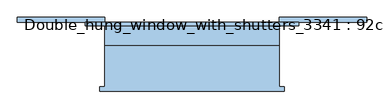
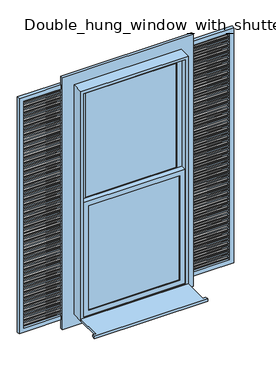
"""IFC4 building model written with IfcOpenShell, lengths in millimetres: window geometry, Double_hung_window_with_shutters_3341 : 92cmx208cm."""

from ifc_helpers import new_model, si_unit, frame, origin, place, context, project, spatial, polyline, outline, extrude, source, transform, mapped, element, save


def double_hung_window_with_shutters_3341_92cmx208cm_efbd8e0f(model_context):
    return source(origin(), model_context, "Body", "SweptSolid", [
        extrude(outline(polyline([(0.0, -25.3999999), (0.0, 0.0), (383.8, 0.0), (383.8, -25.3999999), (0.0, -25.3999999)])), frame((-881.9, 198.5980122, 2578.2474927), z_axis=(0.0, 0.7071067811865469, 0.7071067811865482), x_axis=(1.0, 0.0, 0.0)), (0.0, 0.0, 1.0), 6.35),
        extrude(outline(polyline([(0.0, -25.3999999), (0.0, 0.0), (383.8, 0.0), (383.8, -25.3999999), (0.0, -25.3999999)])), frame((-881.9, 198.5980122, 2552.8456257), z_axis=(0.0, 0.7071067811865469, 0.7071067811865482), x_axis=(1.0, 0.0, 0.0)), (0.0, 0.0, 1.0), 6.35),
        extrude(outline(polyline([(0.0, -25.4), (0.0, 0.0), (383.8, 0.0), (383.8, -25.4), (0.0, -25.4)])), frame((-881.9, 198.5980122, 2527.4437587), z_axis=(0.0, 0.7071067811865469, 0.7071067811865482), x_axis=(1.0, 0.0, 0.0)), (0.0, 0.0, 1.0), 6.35),
        extrude(outline(polyline([(0.0, -25.4), (0.0, 0.0), (383.8, 0.0), (383.8, -25.4), (0.0, -25.4)])), frame((-881.9, 198.5980122, 2502.0418917), z_axis=(0.0, 0.7071067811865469, 0.7071067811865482), x_axis=(1.0, 0.0, 0.0)), (0.0, 0.0, 1.0), 6.35),
        extrude(outline(polyline([(0.0, -25.4), (0.0, 0.0), (383.8, 0.0), (383.8, -25.4), (0.0, -25.4)])), frame((-881.9, 198.5980122, 2476.6400247), z_axis=(0.0, 0.7071067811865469, 0.7071067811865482), x_axis=(1.0, 0.0, 0.0)), (0.0, 0.0, 1.0), 6.35),
        extrude(outline(polyline([(0.0, -25.4), (0.0, 0.0), (383.8, 0.0), (383.8, -25.4), (0.0, -25.4)])), frame((-881.9, 198.5980122, 2451.2381577), z_axis=(0.0, 0.7071067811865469, 0.7071067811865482), x_axis=(1.0, 0.0, 0.0)), (0.0, 0.0, 1.0), 6.35),
        extrude(outline(polyline([(0.0, -25.4), (0.0, 0.0), (383.8, 0.0), (383.8, -25.4), (0.0, -25.4)])), frame((-881.9, 198.5980122, 2425.8362907), z_axis=(0.0, 0.7071067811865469, 0.7071067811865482), x_axis=(1.0, 0.0, 0.0)), (0.0, 0.0, 1.0), 6.35),
        extrude(outline(polyline([(0.0, -25.4), (0.0, 0.0), (383.8, 0.0), (383.8, -25.4), (0.0, -25.4)])), frame((-881.9, 198.5980122, 2400.4344237), z_axis=(0.0, 0.7071067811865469, 0.7071067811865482), x_axis=(1.0, 0.0, 0.0)), (0.0, 0.0, 1.0), 6.35),
        extrude(outline(polyline([(0.0, -25.4), (0.0, 0.0), (383.8, 0.0), (383.8, -25.4), (0.0, -25.4)])), frame((-881.9, 198.5980122, 2375.0325567), z_axis=(0.0, 0.7071067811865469, 0.7071067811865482), x_axis=(1.0, 0.0, 0.0)), (0.0, 0.0, 1.0), 6.35),
        extrude(outline(polyline([(0.0, -25.4), (0.0, 0.0), (383.8, 0.0), (383.8, -25.4), (0.0, -25.4)])), frame((-881.9, 198.5980122, 2349.6306897), z_axis=(0.0, 0.7071067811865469, 0.7071067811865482), x_axis=(1.0, 0.0, 0.0)), (0.0, 0.0, 1.0), 6.35),
        extrude(outline(polyline([(0.0, -25.4), (0.0, 0.0), (383.8, 0.0), (383.8, -25.4), (0.0, -25.4)])), frame((-881.9, 198.5980122, 2324.2288227), z_axis=(0.0, 0.7071067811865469, 0.7071067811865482), x_axis=(1.0, 0.0, 0.0)), (0.0, 0.0, 1.0), 6.35),
        extrude(outline(polyline([(0.0, -25.4), (0.0, 0.0), (383.8, 0.0), (383.8, -25.4), (0.0, -25.4)])), frame((-881.9, 198.5980122, 2298.8269557), z_axis=(0.0, 0.7071067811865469, 0.7071067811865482), x_axis=(1.0, 0.0, 0.0)), (0.0, 0.0, 1.0), 6.35),
        extrude(outline(polyline([(0.0, -25.4), (0.0, 0.0), (383.8, 0.0), (383.8, -25.4), (0.0, -25.4)])), frame((-881.9, 198.5980122, 2273.4250887), z_axis=(0.0, 0.7071067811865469, 0.7071067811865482), x_axis=(1.0, 0.0, 0.0)), (0.0, 0.0, 1.0), 6.35),
        extrude(outline(polyline([(0.0, -25.3999999), (0.0, 0.0), (383.8, 0.0), (383.8, -25.3999999), (0.0, -25.3999999)])), frame((-881.9, 198.5980122, 2248.0232218), z_axis=(0.0, 0.7071067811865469, 0.7071067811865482), x_axis=(1.0, 0.0, 0.0)), (0.0, 0.0, 1.0), 6.35),
        extrude(outline(polyline([(0.0, -25.3999999), (0.0, 0.0), (383.8, 0.0), (383.8, -25.3999999), (0.0, -25.3999999)])), frame((-881.9, 198.5980122, 2222.6213548), z_axis=(0.0, 0.7071067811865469, 0.7071067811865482), x_axis=(1.0, 0.0, 0.0)), (0.0, 0.0, 1.0), 6.35),
        extrude(outline(polyline([(0.0, -25.3999999), (0.0, 0.0), (383.8, 0.0), (383.8, -25.3999999), (0.0, -25.3999999)])), frame((-881.9, 198.5980122, 2197.2194878), z_axis=(0.0, 0.7071067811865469, 0.7071067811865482), x_axis=(1.0, 0.0, 0.0)), (0.0, 0.0, 1.0), 6.35),
        extrude(outline(polyline([(0.0, -25.3999999), (0.0, 0.0), (383.8, 0.0), (383.8, -25.3999999), (0.0, -25.3999999)])), frame((-881.9, 198.5980122, 2171.8176208), z_axis=(0.0, 0.7071067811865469, 0.7071067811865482), x_axis=(1.0, 0.0, 0.0)), (0.0, 0.0, 1.0), 6.35),
        extrude(outline(polyline([(0.0, -25.3999999), (0.0, 0.0), (383.8, 0.0), (383.8, -25.3999999), (0.0, -25.3999999)])), frame((-881.9, 198.5980122, 2146.4157538), z_axis=(0.0, 0.7071067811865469, 0.7071067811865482), x_axis=(1.0, 0.0, 0.0)), (0.0, 0.0, 1.0), 6.35),
        extrude(outline(polyline([(0.0, -25.3999999), (0.0, 0.0), (383.8, 0.0), (383.8, -25.3999999), (0.0, -25.3999999)])), frame((-881.9, 198.5980122, 2121.0138868), z_axis=(0.0, 0.7071067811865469, 0.7071067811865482), x_axis=(1.0, 0.0, 0.0)), (0.0, 0.0, 1.0), 6.35),
        extrude(outline(polyline([(0.0, -25.3999999), (0.0, 0.0), (383.8, 0.0), (383.8, -25.3999999), (0.0, -25.3999999)])), frame((-881.9, 198.5980122, 2095.6120198), z_axis=(0.0, 0.7071067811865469, 0.7071067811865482), x_axis=(1.0, 0.0, 0.0)), (0.0, 0.0, 1.0), 6.35),
        extrude(outline(polyline([(0.0, -25.3999999), (0.0, 0.0), (383.8, 0.0), (383.8, -25.3999999), (0.0, -25.3999999)])), frame((-881.9, 198.5980122, 2070.2101528), z_axis=(0.0, 0.7071067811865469, 0.7071067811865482), x_axis=(1.0, 0.0, 0.0)), (0.0, 0.0, 1.0), 6.35),
        extrude(outline(polyline([(0.0, -25.3999999), (0.0, 0.0), (383.8, 0.0), (383.8, -25.3999999), (0.0, -25.3999999)])), frame((-881.9, 198.5980122, 2044.8082858), z_axis=(0.0, 0.7071067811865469, 0.7071067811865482), x_axis=(1.0, 0.0, 0.0)), (0.0, 0.0, 1.0), 6.35),
        extrude(outline(polyline([(0.0, -25.3999999), (0.0, 0.0), (383.8, 0.0), (383.8, -25.3999999), (0.0, -25.3999999)])), frame((-881.9, 198.5980122, 2019.4064188), z_axis=(0.0, 0.7071067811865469, 0.7071067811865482), x_axis=(1.0, 0.0, 0.0)), (0.0, 0.0, 1.0), 6.35),
        extrude(outline(polyline([(0.0, -25.3999999), (0.0, 0.0), (383.8, 0.0), (383.8, -25.3999999), (0.0, -25.3999999)])), frame((-881.9, 198.5980122, 1994.0045518), z_axis=(0.0, 0.7071067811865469, 0.7071067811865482), x_axis=(1.0, 0.0, 0.0)), (0.0, 0.0, 1.0), 6.35),
        extrude(outline(polyline([(0.0, -25.3999999), (0.0, 0.0), (383.8, 0.0), (383.8, -25.3999999), (0.0, -25.3999999)])), frame((-881.9, 198.5980122, 1968.6026848), z_axis=(0.0, 0.7071067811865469, 0.7071067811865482), x_axis=(1.0, 0.0, 0.0)), (0.0, 0.0, 1.0), 6.35),
        extrude(outline(polyline([(0.0, -25.3999999), (0.0, 0.0), (383.8, 0.0), (383.8, -25.3999999), (0.0, -25.3999999)])), frame((-881.9, 198.5980122, 1943.2008178), z_axis=(0.0, 0.7071067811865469, 0.7071067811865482), x_axis=(1.0, 0.0, 0.0)), (0.0, 0.0, 1.0), 6.35),
        extrude(outline(polyline([(0.0, -25.3999999), (0.0, 0.0), (383.8, 0.0), (383.8, -25.3999999), (0.0, -25.3999999)])), frame((-881.9, 198.5980122, 1917.7989508), z_axis=(0.0, 0.7071067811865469, 0.7071067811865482), x_axis=(1.0, 0.0, 0.0)), (0.0, 0.0, 1.0), 6.35),
        extrude(outline(polyline([(0.0, -25.3999999), (0.0, 0.0), (383.8, 0.0), (383.8, -25.3999999), (0.0, -25.3999999)])), frame((-881.9, 198.5980122, 1892.3970838), z_axis=(0.0, 0.7071067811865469, 0.7071067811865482), x_axis=(1.0, 0.0, 0.0)), (0.0, 0.0, 1.0), 6.35),
        extrude(outline(polyline([(0.0, -25.3999999), (0.0, 0.0), (383.8, 0.0), (383.8, -25.3999999), (0.0, -25.3999999)])), frame((-881.9, 198.5980122, 1866.9952168), z_axis=(0.0, 0.7071067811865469, 0.7071067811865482), x_axis=(1.0, 0.0, 0.0)), (0.0, 0.0, 1.0), 6.35),
        extrude(outline(polyline([(0.0, -25.4), (0.0, 0.0), (383.8, 0.0), (383.8, -25.4), (0.0, -25.4)])), frame((-881.9, 198.5980122, 1841.5933498), z_axis=(0.0, 0.7071067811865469, 0.7071067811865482), x_axis=(1.0, 0.0, 0.0)), (0.0, 0.0, 1.0), 6.35),
        extrude(outline(polyline([(0.0, -25.4), (0.0, 0.0), (383.8, 0.0), (383.8, -25.4), (0.0, -25.4)])), frame((-881.9, 198.5980122, 1816.1914828), z_axis=(0.0, 0.7071067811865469, 0.7071067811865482), x_axis=(1.0, 0.0, 0.0)), (0.0, 0.0, 1.0), 6.35),
        extrude(outline(polyline([(0.0, -25.4), (0.0, 0.0), (383.8, 0.0), (383.8, -25.4), (0.0, -25.4)])), frame((-881.9, 198.5980122, 1790.7896158), z_axis=(0.0, 0.7071067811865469, 0.7071067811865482), x_axis=(1.0, 0.0, 0.0)), (0.0, 0.0, 1.0), 6.35),
        extrude(outline(polyline([(0.0, -25.4), (0.0, 0.0), (383.8, 0.0), (383.8, -25.4), (0.0, -25.4)])), frame((-881.9, 198.5980122, 1765.3877488), z_axis=(0.0, 0.7071067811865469, 0.7071067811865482), x_axis=(1.0, 0.0, 0.0)), (0.0, 0.0, 1.0), 6.35),
        extrude(outline(polyline([(0.0, -25.4), (0.0, 0.0), (383.8, 0.0), (383.8, -25.4), (0.0, -25.4)])), frame((-881.9, 198.5980122, 1739.9858818), z_axis=(0.0, 0.7071067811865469, 0.7071067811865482), x_axis=(1.0, 0.0, 0.0)), (0.0, 0.0, 1.0), 6.35),
        extrude(outline(polyline([(0.0, -25.4), (0.0, 0.0), (383.8, 0.0), (383.8, -25.4), (0.0, -25.4)])), frame((-881.9, 198.5980122, 1714.5840148), z_axis=(0.0, 0.7071067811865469, 0.7071067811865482), x_axis=(1.0, 0.0, 0.0)), (0.0, 0.0, 1.0), 6.35),
        extrude(outline(polyline([(0.0, -25.4), (0.0, 0.0), (383.8, 0.0), (383.8, -25.4), (0.0, -25.4)])), frame((-881.9, 198.5980122, 1689.1821478), z_axis=(0.0, 0.7071067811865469, 0.7071067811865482), x_axis=(1.0, 0.0, 0.0)), (0.0, 0.0, 1.0), 6.35),
        extrude(outline(polyline([(0.0, -25.4), (0.0, 0.0), (383.8, 0.0), (383.8, -25.4), (0.0, -25.4)])), frame((-881.9, 198.5980122, 1663.7802808), z_axis=(0.0, 0.7071067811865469, 0.7071067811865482), x_axis=(1.0, 0.0, 0.0)), (0.0, 0.0, 1.0), 6.35),
        extrude(outline(polyline([(0.0, -25.4), (0.0, 0.0), (383.8, 0.0), (383.8, -25.4), (0.0, -25.4)])), frame((-881.9, 198.5980122, 1638.3784138), z_axis=(0.0, 0.7071067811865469, 0.7071067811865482), x_axis=(1.0, 0.0, 0.0)), (0.0, 0.0, 1.0), 6.35),
        extrude(outline(polyline([(0.0, -25.4), (0.0, 0.0), (383.8, 0.0), (383.8, -25.4), (0.0, -25.4)])), frame((-881.9, 198.5980122, 1612.9765468), z_axis=(0.0, 0.7071067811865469, 0.7071067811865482), x_axis=(1.0, 0.0, 0.0)), (0.0, 0.0, 1.0), 6.35),
        extrude(outline(polyline([(0.0, -25.4), (0.0, 0.0), (383.8, 0.0), (383.8, -25.4), (0.0, -25.4)])), frame((-881.9, 198.5980122, 1587.5746798), z_axis=(0.0, 0.7071067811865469, 0.7071067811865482), x_axis=(1.0, 0.0, 0.0)), (0.0, 0.0, 1.0), 6.35),
        extrude(outline(polyline([(0.0, -25.3999999), (0.0, 0.0), (383.8, 0.0), (383.8, -25.3999999), (0.0, -25.3999999)])), frame((-881.9, 198.5980122, 1562.1728129), z_axis=(0.0, 0.7071067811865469, 0.7071067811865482), x_axis=(1.0, 0.0, 0.0)), (0.0, 0.0, 1.0), 6.35),
        extrude(outline(polyline([(0.0, -25.3999999), (0.0, 0.0), (383.8, 0.0), (383.8, -25.3999999), (0.0, -25.3999999)])), frame((-881.9, 198.5980122, 1536.7709459), z_axis=(0.0, 0.7071067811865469, 0.7071067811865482), x_axis=(1.0, 0.0, 0.0)), (0.0, 0.0, 1.0), 6.35),
        extrude(outline(polyline([(0.0, -25.3999999), (0.0, 0.0), (383.8, 0.0), (383.8, -25.3999999), (0.0, -25.3999999)])), frame((-881.9, 198.5980122, 1511.3690789), z_axis=(0.0, 0.7071067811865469, 0.7071067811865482), x_axis=(1.0, 0.0, 0.0)), (0.0, 0.0, 1.0), 6.35),
        extrude(outline(polyline([(0.0, -25.3999999), (0.0, 0.0), (383.8, 0.0), (383.8, -25.3999999), (0.0, -25.3999999)])), frame((-881.9, 198.5980122, 1485.9672119), z_axis=(0.0, 0.7071067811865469, 0.7071067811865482), x_axis=(1.0, 0.0, 0.0)), (0.0, 0.0, 1.0), 6.35),
        extrude(outline(polyline([(0.0, -25.3999999), (0.0, 0.0), (383.8, 0.0), (383.8, -25.3999999), (0.0, -25.3999999)])), frame((-881.9, 198.5980122, 1460.5653449), z_axis=(0.0, 0.7071067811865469, 0.7071067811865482), x_axis=(1.0, 0.0, 0.0)), (0.0, 0.0, 1.0), 6.35),
        extrude(outline(polyline([(0.0, -25.3999999), (0.0, 0.0), (383.8, 0.0), (383.8, -25.3999999), (0.0, -25.3999999)])), frame((-881.9, 198.5980122, 1435.1634779), z_axis=(0.0, 0.7071067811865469, 0.7071067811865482), x_axis=(1.0, 0.0, 0.0)), (0.0, 0.0, 1.0), 6.35),
        extrude(outline(polyline([(0.0, -25.3999999), (0.0, 0.0), (383.8, 0.0), (383.8, -25.3999999), (0.0, -25.3999999)])), frame((-881.9, 198.5980122, 1409.7616109), z_axis=(0.0, 0.7071067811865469, 0.7071067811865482), x_axis=(1.0, 0.0, 0.0)), (0.0, 0.0, 1.0), 6.35),
        extrude(outline(polyline([(0.0, -25.3999999), (0.0, 0.0), (383.8, 0.0), (383.8, -25.3999999), (0.0, -25.3999999)])), frame((-881.9, 198.5980122, 1384.3597439), z_axis=(0.0, 0.7071067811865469, 0.7071067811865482), x_axis=(1.0, 0.0, 0.0)), (0.0, 0.0, 1.0), 6.35),
        extrude(outline(polyline([(0.0, -25.3999999), (0.0, 0.0), (383.8, 0.0), (383.8, -25.3999999), (0.0, -25.3999999)])), frame((-881.9, 198.5980122, 1358.9578769), z_axis=(0.0, 0.7071067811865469, 0.7071067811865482), x_axis=(1.0, 0.0, 0.0)), (0.0, 0.0, 1.0), 6.35),
        extrude(outline(polyline([(0.0, -25.3999999), (0.0, 0.0), (383.8, 0.0), (383.8, -25.3999999), (0.0, -25.3999999)])), frame((-881.9, 198.5980122, 1333.5560099), z_axis=(0.0, 0.7071067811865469, 0.7071067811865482), x_axis=(1.0, 0.0, 0.0)), (0.0, 0.0, 1.0), 6.35),
        extrude(outline(polyline([(0.0, -25.3999999), (0.0, 0.0), (383.8, 0.0), (383.8, -25.3999999), (0.0, -25.3999999)])), frame((-881.9, 198.5980122, 1308.1541429), z_axis=(0.0, 0.7071067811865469, 0.7071067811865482), x_axis=(1.0, 0.0, 0.0)), (0.0, 0.0, 1.0), 6.35),
        extrude(outline(polyline([(0.0, -25.3999999), (0.0, 0.0), (383.8, 0.0), (383.8, -25.3999999), (0.0, -25.3999999)])), frame((-881.9, 198.5980122, 1282.7522759), z_axis=(0.0, 0.7071067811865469, 0.7071067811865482), x_axis=(1.0, 0.0, 0.0)), (0.0, 0.0, 1.0), 6.35),
        extrude(outline(polyline([(0.0, -25.3999999), (0.0, 0.0), (383.8, 0.0), (383.8, -25.3999999), (0.0, -25.3999999)])), frame((-881.9, 198.5980122, 1257.3504089), z_axis=(0.0, 0.7071067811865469, 0.7071067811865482), x_axis=(1.0, 0.0, 0.0)), (0.0, 0.0, 1.0), 6.35),
        extrude(outline(polyline([(0.0, -25.3999999), (0.0, 0.0), (383.8, 0.0), (383.8, -25.3999999), (0.0, -25.3999999)])), frame((-881.9, 198.5980122, 1231.9485419), z_axis=(0.0, 0.7071067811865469, 0.7071067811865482), x_axis=(1.0, 0.0, 0.0)), (0.0, 0.0, 1.0), 6.35),
        extrude(outline(polyline([(0.0, -25.3999999), (0.0, 0.0), (383.8, 0.0), (383.8, -25.3999999), (0.0, -25.3999999)])), frame((-881.9, 198.5980122, 1206.5466749), z_axis=(0.0, 0.7071067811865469, 0.7071067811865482), x_axis=(1.0, 0.0, 0.0)), (0.0, 0.0, 1.0), 6.35),
        extrude(outline(polyline([(0.0, -25.4), (0.0, 0.0), (383.8, 0.0), (383.8, -25.4), (0.0, -25.4)])), frame((-881.9, 198.5980122, 1181.1448079), z_axis=(0.0, 0.7071067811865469, 0.7071067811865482), x_axis=(1.0, 0.0, 0.0)), (0.0, 0.0, 1.0), 6.35),
        extrude(outline(polyline([(0.0, -25.4), (0.0, 0.0), (383.8, 0.0), (383.8, -25.4), (0.0, -25.4)])), frame((-881.9, 198.5980122, 1155.7429409), z_axis=(0.0, 0.7071067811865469, 0.7071067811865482), x_axis=(1.0, 0.0, 0.0)), (0.0, 0.0, 1.0), 6.35),
        extrude(outline(polyline([(0.0, -25.4), (0.0, 0.0), (383.8, 0.0), (383.8, -25.4), (0.0, -25.4)])), frame((-881.9, 198.5980122, 1130.3410739), z_axis=(0.0, 0.7071067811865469, 0.7071067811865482), x_axis=(1.0, 0.0, 0.0)), (0.0, 0.0, 1.0), 6.35),
        extrude(outline(polyline([(0.0, -25.4), (0.0, 0.0), (383.8, 0.0), (383.8, -25.4), (0.0, -25.4)])), frame((-881.9, 198.5980122, 1104.9392069), z_axis=(0.0, 0.7071067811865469, 0.7071067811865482), x_axis=(1.0, 0.0, 0.0)), (0.0, 0.0, 1.0), 6.35),
        extrude(outline(polyline([(0.0, -25.4), (0.0, 0.0), (383.8, 0.0), (383.8, -25.4), (0.0, -25.4)])), frame((-881.9, 198.5980122, 1079.5373399), z_axis=(0.0, 0.7071067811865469, 0.7071067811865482), x_axis=(1.0, 0.0, 0.0)), (0.0, 0.0, 1.0), 6.35),
        extrude(outline(polyline([(0.0, -25.4), (0.0, 0.0), (383.8, 0.0), (383.8, -25.4), (0.0, -25.4)])), frame((-881.9, 198.5980122, 1054.1354729), z_axis=(0.0, 0.7071067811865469, 0.7071067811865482), x_axis=(1.0, 0.0, 0.0)), (0.0, 0.0, 1.0), 6.35),
        extrude(outline(polyline([(0.0, -25.4), (0.0, 0.0), (383.8, 0.0), (383.8, -25.4), (0.0, -25.4)])), frame((-881.9, 198.5980122, 1028.7336059), z_axis=(0.0, 0.7071067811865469, 0.7071067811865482), x_axis=(1.0, 0.0, 0.0)), (0.0, 0.0, 1.0), 6.35),
        extrude(outline(polyline([(0.0, -25.4), (0.0, 0.0), (383.8, 0.0), (383.8, -25.4), (0.0, -25.4)])), frame((-881.9, 198.5980122, 1003.3317389), z_axis=(0.0, 0.7071067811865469, 0.7071067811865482), x_axis=(1.0, 0.0, 0.0)), (0.0, 0.0, 1.0), 6.35),
        extrude(outline(polyline([(0.0, -25.4), (0.0, 0.0), (383.8, 0.0), (383.8, -25.4), (0.0, -25.4)])), frame((-881.9, 198.5980122, 977.9298719), z_axis=(0.0, 0.7071067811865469, 0.7071067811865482), x_axis=(1.0, 0.0, 0.0)), (0.0, 0.0, 1.0), 6.35),
        extrude(outline(polyline([(0.0, -25.4), (0.0, 0.0), (383.8, 0.0), (383.8, -25.4), (0.0, -25.4)])), frame((-881.9, 198.5980122, 952.5280049), z_axis=(0.0, 0.7071067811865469, 0.7071067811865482), x_axis=(1.0, 0.0, 0.0)), (0.0, 0.0, 1.0), 6.35),
        extrude(outline(polyline([(0.0, -25.4), (0.0, 0.0), (383.8, 0.0), (383.8, -25.4), (0.0, -25.4)])), frame((-881.9, 198.5980122, 927.1261379), z_axis=(0.0, 0.7071067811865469, 0.7071067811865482), x_axis=(1.0, 0.0, 0.0)), (0.0, 0.0, 1.0), 6.35),
        extrude(outline(polyline([(0.0, -25.3999999), (0.0, 0.0), (383.8, 0.0), (383.8, -25.3999999), (0.0, -25.3999999)])), frame((-881.9, 198.5980122, 901.724271), z_axis=(0.0, 0.7071067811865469, 0.7071067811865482), x_axis=(1.0, 0.0, 0.0)), (0.0, 0.0, 1.0), 6.35),
        extrude(outline(polyline([(0.0, -25.3999999), (0.0, 0.0), (383.8, 0.0), (383.8, -25.3999999), (0.0, -25.3999999)])), frame((-881.9, 198.5980122, 876.322404), z_axis=(0.0, 0.7071067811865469, 0.7071067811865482), x_axis=(1.0, 0.0, 0.0)), (0.0, 0.0, 1.0), 6.35),
        extrude(outline(polyline([(0.0, -25.3999999), (0.0, 0.0), (383.8, 0.0), (383.8, -25.3999999), (0.0, -25.3999999)])), frame((-881.9, 198.5980122, 850.920537), z_axis=(0.0, 0.7071067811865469, 0.7071067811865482), x_axis=(1.0, 0.0, 0.0)), (0.0, 0.0, 1.0), 6.35),
        extrude(outline(polyline([(0.0, -25.3999999), (0.0, 0.0), (383.8, 0.0), (383.8, -25.3999999), (0.0, -25.3999999)])), frame((-881.9, 198.5980122, 825.51867), z_axis=(0.0, 0.7071067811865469, 0.7071067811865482), x_axis=(1.0, 0.0, 0.0)), (0.0, 0.0, 1.0), 6.35),
        extrude(outline(polyline([(0.0, -25.3999999), (0.0, 0.0), (383.8, 0.0), (383.8, -25.3999999), (0.0, -25.3999999)])), frame((-881.9, 198.5980122, 800.116803), z_axis=(0.0, 0.7071067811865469, 0.7071067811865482), x_axis=(1.0, 0.0, 0.0)), (0.0, 0.0, 1.0), 6.35),
        extrude(outline(polyline([(0.0, -25.3999999), (0.0, 0.0), (383.8, 0.0), (383.8, -25.3999999), (0.0, -25.3999999)])), frame((-881.9, 198.5980122, 774.714936), z_axis=(0.0, 0.7071067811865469, 0.7071067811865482), x_axis=(1.0, 0.0, 0.0)), (0.0, 0.0, 1.0), 6.35),
        extrude(outline(polyline([(0.0, -25.3999999), (0.0, 0.0), (383.8, 0.0), (383.8, -25.3999999), (0.0, -25.3999999)])), frame((-881.9, 198.5980122, 749.313069), z_axis=(0.0, 0.7071067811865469, 0.7071067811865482), x_axis=(1.0, 0.0, 0.0)), (0.0, 0.0, 1.0), 6.35),
        extrude(outline(polyline([(0.0, -25.3999999), (0.0, 0.0), (383.8, 0.0), (383.8, -25.3999999), (0.0, -25.3999999)])), frame((-881.9, 198.5980122, 723.911202), z_axis=(0.0, 0.7071067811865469, 0.7071067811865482), x_axis=(1.0, 0.0, 0.0)), (0.0, 0.0, 1.0), 6.35),
        extrude(outline(polyline([(0.0, -25.3999999), (0.0, 0.0), (383.8, 0.0), (383.8, -25.3999999), (0.0, -25.3999999)])), frame((-881.9, 198.5980122, 698.509335), z_axis=(0.0, 0.7071067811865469, 0.7071067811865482), x_axis=(1.0, 0.0, 0.0)), (0.0, 0.0, 1.0), 6.35),
        extrude(outline(polyline([(0.0, -25.3999999), (0.0, 0.0), (383.8, 0.0), (383.8, -25.3999999), (0.0, -25.3999999)])), frame((-881.9, 198.5980122, 673.107468), z_axis=(0.0, 0.7071067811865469, 0.7071067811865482), x_axis=(1.0, 0.0, 0.0)), (0.0, 0.0, 1.0), 6.35),
        extrude(outline(polyline([(0.0, -25.3999999), (0.0, 0.0), (383.8, 0.0), (383.8, -25.3999999), (0.0, -25.3999999)])), frame((-881.9, 198.5980122, 647.705601), z_axis=(0.0, 0.7071067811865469, 0.7071067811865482), x_axis=(1.0, 0.0, 0.0)), (0.0, 0.0, 1.0), 6.35),
        extrude(outline(polyline([(0.0, -25.3999999), (0.0, 0.0), (383.8, 0.0), (383.8, -25.3999999), (0.0, -25.3999999)])), frame((-881.9, 198.5980122, 622.303734), z_axis=(0.0, 0.7071067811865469, 0.7071067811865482), x_axis=(1.0, 0.0, 0.0)), (0.0, 0.0, 1.0), 6.35),
        extrude(outline(polyline([(0.0, -25.3999999), (0.0, 0.0), (383.8, 0.0), (383.8, -25.3999999), (0.0, -25.3999999)])), frame((-881.9, 198.5980122, 596.901867), z_axis=(0.0, 0.7071067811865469, 0.7071067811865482), x_axis=(1.0, 0.0, 0.0)), (0.0, 0.0, 1.0), 6.35),
        extrude(outline(polyline([(0.0, -25.3999999), (0.0, 0.0), (383.8, 0.0), (383.8, -25.3999999), (0.0, -25.3999999)])), frame((-881.9, 198.5980122, 2603.6493597), z_axis=(0.0, 0.7071067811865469, 0.7071067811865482), x_axis=(1.0, 0.0, 0.0)), (0.0, 0.0, 1.0), 6.35),
        extrude(outline(polyline([(0.0, -25.3999999), (0.0, 0.0), (383.8, 0.0), (383.8, -25.3999999), (0.0, -25.3999999)])), frame((-881.9, 198.5980122, 571.5), z_axis=(0.0, 0.7071067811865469, 0.7071067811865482), x_axis=(1.0, 0.0, 0.0)), (0.0, 0.0, 1.0), 6.35),
        extrude(outline(polyline([(533.4, -460.0), (2664.2, -460.0), (2664.2, -920.0), (533.4, -920.0), (533.4, -460.0)]), holes=[polyline([(571.5, -498.1), (571.5, -881.9), (2626.1, -881.9), (2626.1, -498.1), (571.5, -498.1)])]), frame((0.0, 179.05, 0.0), z_axis=(0.0, 1.0, 0.0), x_axis=(0.0, 0.0, 1.0)), (0.0, 0.0, 1.0), 25.4),
        extrude(outline(polyline([(0.0, 25.3999999), (383.8, 25.3999999), (383.8, 0.0), (0.0, 0.0), (0.0, 25.3999999)])), frame((881.9, 198.5980122, 2578.2474927), z_axis=(0.0, 0.7071067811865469, 0.7071067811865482), x_axis=(-1.0, 0.0, 0.0)), (0.0, 0.0, 1.0), 6.35),
        extrude(outline(polyline([(0.0, 25.3999999), (383.8, 25.3999999), (383.8, 0.0), (0.0, 0.0), (0.0, 25.3999999)])), frame((881.9, 198.5980122, 2552.8456257), z_axis=(0.0, 0.7071067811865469, 0.7071067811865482), x_axis=(-1.0, 0.0, 0.0)), (0.0, 0.0, 1.0), 6.35),
        extrude(outline(polyline([(0.0, 25.4), (383.8, 25.4), (383.8, 0.0), (0.0, 0.0), (0.0, 25.4)])), frame((881.9, 198.5980122, 2527.4437587), z_axis=(0.0, 0.7071067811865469, 0.7071067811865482), x_axis=(-1.0, 0.0, 0.0)), (0.0, 0.0, 1.0), 6.35),
        extrude(outline(polyline([(0.0, 25.4), (383.8, 25.4), (383.8, 0.0), (0.0, 0.0), (0.0, 25.4)])), frame((881.9, 198.5980122, 2502.0418917), z_axis=(0.0, 0.7071067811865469, 0.7071067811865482), x_axis=(-1.0, 0.0, 0.0)), (0.0, 0.0, 1.0), 6.35),
        extrude(outline(polyline([(0.0, 25.4), (383.8, 25.4), (383.8, 0.0), (0.0, 0.0), (0.0, 25.4)])), frame((881.9, 198.5980122, 2476.6400247), z_axis=(0.0, 0.7071067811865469, 0.7071067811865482), x_axis=(-1.0, 0.0, 0.0)), (0.0, 0.0, 1.0), 6.35),
        extrude(outline(polyline([(0.0, 25.4), (383.8, 25.4), (383.8, 0.0), (0.0, 0.0), (0.0, 25.4)])), frame((881.9, 198.5980122, 2451.2381577), z_axis=(0.0, 0.7071067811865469, 0.7071067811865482), x_axis=(-1.0, 0.0, 0.0)), (0.0, 0.0, 1.0), 6.35),
        extrude(outline(polyline([(0.0, 25.4), (383.8, 25.4), (383.8, 0.0), (0.0, 0.0), (0.0, 25.4)])), frame((881.9, 198.5980122, 2425.8362907), z_axis=(0.0, 0.7071067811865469, 0.7071067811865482), x_axis=(-1.0, 0.0, 0.0)), (0.0, 0.0, 1.0), 6.35),
        extrude(outline(polyline([(0.0, 25.4), (383.8, 25.4), (383.8, 0.0), (0.0, 0.0), (0.0, 25.4)])), frame((881.9, 198.5980122, 2400.4344237), z_axis=(0.0, 0.7071067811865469, 0.7071067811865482), x_axis=(-1.0, 0.0, 0.0)), (0.0, 0.0, 1.0), 6.35),
        extrude(outline(polyline([(0.0, 25.4), (383.8, 25.4), (383.8, 0.0), (0.0, 0.0), (0.0, 25.4)])), frame((881.9, 198.5980122, 2375.0325567), z_axis=(0.0, 0.7071067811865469, 0.7071067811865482), x_axis=(-1.0, 0.0, 0.0)), (0.0, 0.0, 1.0), 6.35),
        extrude(outline(polyline([(0.0, 25.4), (383.8, 25.4), (383.8, 0.0), (0.0, 0.0), (0.0, 25.4)])), frame((881.9, 198.5980122, 2349.6306897), z_axis=(0.0, 0.7071067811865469, 0.7071067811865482), x_axis=(-1.0, 0.0, 0.0)), (0.0, 0.0, 1.0), 6.35),
        extrude(outline(polyline([(0.0, 25.4), (383.8, 25.4), (383.8, 0.0), (0.0, 0.0), (0.0, 25.4)])), frame((881.9, 198.5980122, 2324.2288227), z_axis=(0.0, 0.7071067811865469, 0.7071067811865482), x_axis=(-1.0, 0.0, 0.0)), (0.0, 0.0, 1.0), 6.35),
        extrude(outline(polyline([(0.0, 25.4), (383.8, 25.4), (383.8, 0.0), (0.0, 0.0), (0.0, 25.4)])), frame((881.9, 198.5980122, 2298.8269557), z_axis=(0.0, 0.7071067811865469, 0.7071067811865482), x_axis=(-1.0, 0.0, 0.0)), (0.0, 0.0, 1.0), 6.35),
        extrude(outline(polyline([(0.0, 25.4), (383.8, 25.4), (383.8, 0.0), (0.0, 0.0), (0.0, 25.4)])), frame((881.9, 198.5980122, 2273.4250887), z_axis=(0.0, 0.7071067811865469, 0.7071067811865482), x_axis=(-1.0, 0.0, 0.0)), (0.0, 0.0, 1.0), 6.35),
        extrude(outline(polyline([(0.0, 25.3999999), (383.8, 25.3999999), (383.8, 0.0), (0.0, 0.0), (0.0, 25.3999999)])), frame((881.9, 198.5980122, 2248.0232218), z_axis=(0.0, 0.7071067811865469, 0.7071067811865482), x_axis=(-1.0, 0.0, 0.0)), (0.0, 0.0, 1.0), 6.35),
        extrude(outline(polyline([(0.0, 25.3999999), (383.8, 25.3999999), (383.8, 0.0), (0.0, 0.0), (0.0, 25.3999999)])), frame((881.9, 198.5980122, 2222.6213548), z_axis=(0.0, 0.7071067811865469, 0.7071067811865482), x_axis=(-1.0, 0.0, 0.0)), (0.0, 0.0, 1.0), 6.35),
        extrude(outline(polyline([(0.0, 25.3999999), (383.8, 25.3999999), (383.8, 0.0), (0.0, 0.0), (0.0, 25.3999999)])), frame((881.9, 198.5980122, 2197.2194878), z_axis=(0.0, 0.7071067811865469, 0.7071067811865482), x_axis=(-1.0, 0.0, 0.0)), (0.0, 0.0, 1.0), 6.35),
        extrude(outline(polyline([(0.0, 25.3999999), (383.8, 25.3999999), (383.8, 0.0), (0.0, 0.0), (0.0, 25.3999999)])), frame((881.9, 198.5980122, 2171.8176208), z_axis=(0.0, 0.7071067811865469, 0.7071067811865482), x_axis=(-1.0, 0.0, 0.0)), (0.0, 0.0, 1.0), 6.35),
        extrude(outline(polyline([(0.0, 25.3999999), (383.8, 25.3999999), (383.8, 0.0), (0.0, 0.0), (0.0, 25.3999999)])), frame((881.9, 198.5980122, 2146.4157538), z_axis=(0.0, 0.7071067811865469, 0.7071067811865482), x_axis=(-1.0, 0.0, 0.0)), (0.0, 0.0, 1.0), 6.35),
        extrude(outline(polyline([(0.0, 25.3999999), (383.8, 25.3999999), (383.8, 0.0), (0.0, 0.0), (0.0, 25.3999999)])), frame((881.9, 198.5980122, 2121.0138868), z_axis=(0.0, 0.7071067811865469, 0.7071067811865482), x_axis=(-1.0, 0.0, 0.0)), (0.0, 0.0, 1.0), 6.35),
        extrude(outline(polyline([(0.0, 25.3999999), (383.8, 25.3999999), (383.8, 0.0), (0.0, 0.0), (0.0, 25.3999999)])), frame((881.9, 198.5980122, 2095.6120198), z_axis=(0.0, 0.7071067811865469, 0.7071067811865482), x_axis=(-1.0, 0.0, 0.0)), (0.0, 0.0, 1.0), 6.35),
        extrude(outline(polyline([(0.0, 25.3999999), (383.8, 25.3999999), (383.8, 0.0), (0.0, 0.0), (0.0, 25.3999999)])), frame((881.9, 198.5980122, 2070.2101528), z_axis=(0.0, 0.7071067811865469, 0.7071067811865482), x_axis=(-1.0, 0.0, 0.0)), (0.0, 0.0, 1.0), 6.35),
        extrude(outline(polyline([(0.0, 25.3999999), (383.8, 25.3999999), (383.8, 0.0), (0.0, 0.0), (0.0, 25.3999999)])), frame((881.9, 198.5980122, 2044.8082858), z_axis=(0.0, 0.7071067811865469, 0.7071067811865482), x_axis=(-1.0, 0.0, 0.0)), (0.0, 0.0, 1.0), 6.35),
        extrude(outline(polyline([(0.0, 25.3999999), (383.8, 25.3999999), (383.8, 0.0), (0.0, 0.0), (0.0, 25.3999999)])), frame((881.9, 198.5980122, 2019.4064188), z_axis=(0.0, 0.7071067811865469, 0.7071067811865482), x_axis=(-1.0, 0.0, 0.0)), (0.0, 0.0, 1.0), 6.35),
        extrude(outline(polyline([(0.0, 25.3999999), (383.8, 25.3999999), (383.8, 0.0), (0.0, 0.0), (0.0, 25.3999999)])), frame((881.9, 198.5980122, 1994.0045518), z_axis=(0.0, 0.7071067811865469, 0.7071067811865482), x_axis=(-1.0, 0.0, 0.0)), (0.0, 0.0, 1.0), 6.35),
        extrude(outline(polyline([(0.0, 25.3999999), (383.8, 25.3999999), (383.8, 0.0), (0.0, 0.0), (0.0, 25.3999999)])), frame((881.9, 198.5980122, 1968.6026848), z_axis=(0.0, 0.7071067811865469, 0.7071067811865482), x_axis=(-1.0, 0.0, 0.0)), (0.0, 0.0, 1.0), 6.35),
        extrude(outline(polyline([(0.0, 25.3999999), (383.8, 25.3999999), (383.8, 0.0), (0.0, 0.0), (0.0, 25.3999999)])), frame((881.9, 198.5980122, 1943.2008178), z_axis=(0.0, 0.7071067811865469, 0.7071067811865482), x_axis=(-1.0, 0.0, 0.0)), (0.0, 0.0, 1.0), 6.35),
        extrude(outline(polyline([(0.0, 25.3999999), (383.8, 25.3999999), (383.8, 0.0), (0.0, 0.0), (0.0, 25.3999999)])), frame((881.9, 198.5980122, 1917.7989508), z_axis=(0.0, 0.7071067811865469, 0.7071067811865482), x_axis=(-1.0, 0.0, 0.0)), (0.0, 0.0, 1.0), 6.35),
        extrude(outline(polyline([(0.0, 25.3999999), (383.8, 25.3999999), (383.8, 0.0), (0.0, 0.0), (0.0, 25.3999999)])), frame((881.9, 198.5980122, 1892.3970838), z_axis=(0.0, 0.7071067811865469, 0.7071067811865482), x_axis=(-1.0, 0.0, 0.0)), (0.0, 0.0, 1.0), 6.35),
        extrude(outline(polyline([(0.0, 25.3999999), (383.8, 25.3999999), (383.8, 0.0), (0.0, 0.0), (0.0, 25.3999999)])), frame((881.9, 198.5980122, 1866.9952168), z_axis=(0.0, 0.7071067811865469, 0.7071067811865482), x_axis=(-1.0, 0.0, 0.0)), (0.0, 0.0, 1.0), 6.35),
        extrude(outline(polyline([(0.0, 25.4), (383.8, 25.4), (383.8, 0.0), (0.0, 0.0), (0.0, 25.4)])), frame((881.9, 198.5980122, 1841.5933498), z_axis=(0.0, 0.7071067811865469, 0.7071067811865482), x_axis=(-1.0, 0.0, 0.0)), (0.0, 0.0, 1.0), 6.35),
        extrude(outline(polyline([(0.0, 25.4), (383.8, 25.4), (383.8, 0.0), (0.0, 0.0), (0.0, 25.4)])), frame((881.9, 198.5980122, 1816.1914828), z_axis=(0.0, 0.7071067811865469, 0.7071067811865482), x_axis=(-1.0, 0.0, 0.0)), (0.0, 0.0, 1.0), 6.35),
        extrude(outline(polyline([(0.0, 25.4), (383.8, 25.4), (383.8, 0.0), (0.0, 0.0), (0.0, 25.4)])), frame((881.9, 198.5980122, 1790.7896158), z_axis=(0.0, 0.7071067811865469, 0.7071067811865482), x_axis=(-1.0, 0.0, 0.0)), (0.0, 0.0, 1.0), 6.35),
        extrude(outline(polyline([(0.0, 25.4), (383.8, 25.4), (383.8, 0.0), (0.0, 0.0), (0.0, 25.4)])), frame((881.9, 198.5980122, 1765.3877488), z_axis=(0.0, 0.7071067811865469, 0.7071067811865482), x_axis=(-1.0, 0.0, 0.0)), (0.0, 0.0, 1.0), 6.35),
        extrude(outline(polyline([(0.0, 25.4), (383.8, 25.4), (383.8, 0.0), (0.0, 0.0), (0.0, 25.4)])), frame((881.9, 198.5980122, 1739.9858818), z_axis=(0.0, 0.7071067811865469, 0.7071067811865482), x_axis=(-1.0, 0.0, 0.0)), (0.0, 0.0, 1.0), 6.35),
        extrude(outline(polyline([(0.0, 25.4), (383.8, 25.4), (383.8, 0.0), (0.0, 0.0), (0.0, 25.4)])), frame((881.9, 198.5980122, 1714.5840148), z_axis=(0.0, 0.7071067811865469, 0.7071067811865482), x_axis=(-1.0, 0.0, 0.0)), (0.0, 0.0, 1.0), 6.35),
        extrude(outline(polyline([(0.0, 25.4), (383.8, 25.4), (383.8, 0.0), (0.0, 0.0), (0.0, 25.4)])), frame((881.9, 198.5980122, 1689.1821478), z_axis=(0.0, 0.7071067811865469, 0.7071067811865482), x_axis=(-1.0, 0.0, 0.0)), (0.0, 0.0, 1.0), 6.35),
        extrude(outline(polyline([(0.0, 25.4), (383.8, 25.4), (383.8, 0.0), (0.0, 0.0), (0.0, 25.4)])), frame((881.9, 198.5980122, 1663.7802808), z_axis=(0.0, 0.7071067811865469, 0.7071067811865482), x_axis=(-1.0, 0.0, 0.0)), (0.0, 0.0, 1.0), 6.35),
        extrude(outline(polyline([(0.0, 25.4), (383.8, 25.4), (383.8, 0.0), (0.0, 0.0), (0.0, 25.4)])), frame((881.9, 198.5980122, 1638.3784138), z_axis=(0.0, 0.7071067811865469, 0.7071067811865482), x_axis=(-1.0, 0.0, 0.0)), (0.0, 0.0, 1.0), 6.35),
        extrude(outline(polyline([(0.0, 25.4), (383.8, 25.4), (383.8, 0.0), (0.0, 0.0), (0.0, 25.4)])), frame((881.9, 198.5980122, 1612.9765468), z_axis=(0.0, 0.7071067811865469, 0.7071067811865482), x_axis=(-1.0, 0.0, 0.0)), (0.0, 0.0, 1.0), 6.35),
        extrude(outline(polyline([(0.0, 25.4), (383.8, 25.4), (383.8, 0.0), (0.0, 0.0), (0.0, 25.4)])), frame((881.9, 198.5980122, 1587.5746798), z_axis=(0.0, 0.7071067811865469, 0.7071067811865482), x_axis=(-1.0, 0.0, 0.0)), (0.0, 0.0, 1.0), 6.35),
        extrude(outline(polyline([(0.0, 25.3999999), (383.8, 25.3999999), (383.8, 0.0), (0.0, 0.0), (0.0, 25.3999999)])), frame((881.9, 198.5980122, 1562.1728129), z_axis=(0.0, 0.7071067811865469, 0.7071067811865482), x_axis=(-1.0, 0.0, 0.0)), (0.0, 0.0, 1.0), 6.35),
        extrude(outline(polyline([(0.0, 25.3999999), (383.8, 25.3999999), (383.8, 0.0), (0.0, 0.0), (0.0, 25.3999999)])), frame((881.9, 198.5980122, 1536.7709459), z_axis=(0.0, 0.7071067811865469, 0.7071067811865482), x_axis=(-1.0, 0.0, 0.0)), (0.0, 0.0, 1.0), 6.35),
        extrude(outline(polyline([(0.0, 25.3999999), (383.8, 25.3999999), (383.8, 0.0), (0.0, 0.0), (0.0, 25.3999999)])), frame((881.9, 198.5980122, 1511.3690789), z_axis=(0.0, 0.7071067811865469, 0.7071067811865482), x_axis=(-1.0, 0.0, 0.0)), (0.0, 0.0, 1.0), 6.35),
        extrude(outline(polyline([(0.0, 25.3999999), (383.8, 25.3999999), (383.8, 0.0), (0.0, 0.0), (0.0, 25.3999999)])), frame((881.9, 198.5980122, 1485.9672119), z_axis=(0.0, 0.7071067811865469, 0.7071067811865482), x_axis=(-1.0, 0.0, 0.0)), (0.0, 0.0, 1.0), 6.35),
        extrude(outline(polyline([(0.0, 25.3999999), (383.8, 25.3999999), (383.8, 0.0), (0.0, 0.0), (0.0, 25.3999999)])), frame((881.9, 198.5980122, 1460.5653449), z_axis=(0.0, 0.7071067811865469, 0.7071067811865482), x_axis=(-1.0, 0.0, 0.0)), (0.0, 0.0, 1.0), 6.35),
        extrude(outline(polyline([(0.0, 25.3999999), (383.8, 25.3999999), (383.8, 0.0), (0.0, 0.0), (0.0, 25.3999999)])), frame((881.9, 198.5980122, 1435.1634779), z_axis=(0.0, 0.7071067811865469, 0.7071067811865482), x_axis=(-1.0, 0.0, 0.0)), (0.0, 0.0, 1.0), 6.35),
        extrude(outline(polyline([(0.0, 25.3999999), (383.8, 25.3999999), (383.8, 0.0), (0.0, 0.0), (0.0, 25.3999999)])), frame((881.9, 198.5980122, 1409.7616109), z_axis=(0.0, 0.7071067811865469, 0.7071067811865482), x_axis=(-1.0, 0.0, 0.0)), (0.0, 0.0, 1.0), 6.35),
        extrude(outline(polyline([(0.0, 25.3999999), (383.8, 25.3999999), (383.8, 0.0), (0.0, 0.0), (0.0, 25.3999999)])), frame((881.9, 198.5980122, 1384.3597439), z_axis=(0.0, 0.7071067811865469, 0.7071067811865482), x_axis=(-1.0, 0.0, 0.0)), (0.0, 0.0, 1.0), 6.35),
        extrude(outline(polyline([(0.0, 25.3999999), (383.8, 25.3999999), (383.8, 0.0), (0.0, 0.0), (0.0, 25.3999999)])), frame((881.9, 198.5980122, 1358.9578769), z_axis=(0.0, 0.7071067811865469, 0.7071067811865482), x_axis=(-1.0, 0.0, 0.0)), (0.0, 0.0, 1.0), 6.35),
        extrude(outline(polyline([(0.0, 25.3999999), (383.8, 25.3999999), (383.8, 0.0), (0.0, 0.0), (0.0, 25.3999999)])), frame((881.9, 198.5980122, 1333.5560099), z_axis=(0.0, 0.7071067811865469, 0.7071067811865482), x_axis=(-1.0, 0.0, 0.0)), (0.0, 0.0, 1.0), 6.35),
        extrude(outline(polyline([(0.0, 25.3999999), (383.8, 25.3999999), (383.8, 0.0), (0.0, 0.0), (0.0, 25.3999999)])), frame((881.9, 198.5980122, 1308.1541429), z_axis=(0.0, 0.7071067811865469, 0.7071067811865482), x_axis=(-1.0, 0.0, 0.0)), (0.0, 0.0, 1.0), 6.35),
        extrude(outline(polyline([(0.0, 25.3999999), (383.8, 25.3999999), (383.8, 0.0), (0.0, 0.0), (0.0, 25.3999999)])), frame((881.9, 198.5980122, 1282.7522759), z_axis=(0.0, 0.7071067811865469, 0.7071067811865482), x_axis=(-1.0, 0.0, 0.0)), (0.0, 0.0, 1.0), 6.35),
        extrude(outline(polyline([(0.0, 25.3999999), (383.8, 25.3999999), (383.8, 0.0), (0.0, 0.0), (0.0, 25.3999999)])), frame((881.9, 198.5980122, 1257.3504089), z_axis=(0.0, 0.7071067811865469, 0.7071067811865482), x_axis=(-1.0, 0.0, 0.0)), (0.0, 0.0, 1.0), 6.35),
        extrude(outline(polyline([(0.0, 25.3999999), (383.8, 25.3999999), (383.8, 0.0), (0.0, 0.0), (0.0, 25.3999999)])), frame((881.9, 198.5980122, 1231.9485419), z_axis=(0.0, 0.7071067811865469, 0.7071067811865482), x_axis=(-1.0, 0.0, 0.0)), (0.0, 0.0, 1.0), 6.35),
        extrude(outline(polyline([(0.0, 25.3999999), (383.8, 25.3999999), (383.8, 0.0), (0.0, 0.0), (0.0, 25.3999999)])), frame((881.9, 198.5980122, 1206.5466749), z_axis=(0.0, 0.7071067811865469, 0.7071067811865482), x_axis=(-1.0, 0.0, 0.0)), (0.0, 0.0, 1.0), 6.35),
        extrude(outline(polyline([(0.0, 25.4), (383.8, 25.4), (383.8, 0.0), (0.0, 0.0), (0.0, 25.4)])), frame((881.9, 198.5980122, 1181.1448079), z_axis=(0.0, 0.7071067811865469, 0.7071067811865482), x_axis=(-1.0, 0.0, 0.0)), (0.0, 0.0, 1.0), 6.35),
        extrude(outline(polyline([(0.0, 25.4), (383.8, 25.4), (383.8, 0.0), (0.0, 0.0), (0.0, 25.4)])), frame((881.9, 198.5980122, 1155.7429409), z_axis=(0.0, 0.7071067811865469, 0.7071067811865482), x_axis=(-1.0, 0.0, 0.0)), (0.0, 0.0, 1.0), 6.35),
        extrude(outline(polyline([(0.0, 25.4), (383.8, 25.4), (383.8, 0.0), (0.0, 0.0), (0.0, 25.4)])), frame((881.9, 198.5980122, 1130.3410739), z_axis=(0.0, 0.7071067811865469, 0.7071067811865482), x_axis=(-1.0, 0.0, 0.0)), (0.0, 0.0, 1.0), 6.35),
        extrude(outline(polyline([(0.0, 25.4), (383.8, 25.4), (383.8, 0.0), (0.0, 0.0), (0.0, 25.4)])), frame((881.9, 198.5980122, 1104.9392069), z_axis=(0.0, 0.7071067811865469, 0.7071067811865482), x_axis=(-1.0, 0.0, 0.0)), (0.0, 0.0, 1.0), 6.35),
        extrude(outline(polyline([(0.0, 25.4), (383.8, 25.4), (383.8, 0.0), (0.0, 0.0), (0.0, 25.4)])), frame((881.9, 198.5980122, 1079.5373399), z_axis=(0.0, 0.7071067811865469, 0.7071067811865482), x_axis=(-1.0, 0.0, 0.0)), (0.0, 0.0, 1.0), 6.35),
        extrude(outline(polyline([(0.0, 25.4), (383.8, 25.4), (383.8, 0.0), (0.0, 0.0), (0.0, 25.4)])), frame((881.9, 198.5980122, 1054.1354729), z_axis=(0.0, 0.7071067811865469, 0.7071067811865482), x_axis=(-1.0, 0.0, 0.0)), (0.0, 0.0, 1.0), 6.35),
        extrude(outline(polyline([(0.0, 25.4), (383.8, 25.4), (383.8, 0.0), (0.0, 0.0), (0.0, 25.4)])), frame((881.9, 198.5980122, 1028.7336059), z_axis=(0.0, 0.7071067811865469, 0.7071067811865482), x_axis=(-1.0, 0.0, 0.0)), (0.0, 0.0, 1.0), 6.35),
        extrude(outline(polyline([(0.0, 25.4), (383.8, 25.4), (383.8, 0.0), (0.0, 0.0), (0.0, 25.4)])), frame((881.9, 198.5980122, 1003.3317389), z_axis=(0.0, 0.7071067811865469, 0.7071067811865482), x_axis=(-1.0, 0.0, 0.0)), (0.0, 0.0, 1.0), 6.35),
        extrude(outline(polyline([(0.0, 25.4), (383.8, 25.4), (383.8, 0.0), (0.0, 0.0), (0.0, 25.4)])), frame((881.9, 198.5980122, 977.9298719), z_axis=(0.0, 0.7071067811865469, 0.7071067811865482), x_axis=(-1.0, 0.0, 0.0)), (0.0, 0.0, 1.0), 6.35),
        extrude(outline(polyline([(0.0, 25.4), (383.8, 25.4), (383.8, 0.0), (0.0, 0.0), (0.0, 25.4)])), frame((881.9, 198.5980122, 952.5280049), z_axis=(0.0, 0.7071067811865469, 0.7071067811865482), x_axis=(-1.0, 0.0, 0.0)), (0.0, 0.0, 1.0), 6.35),
        extrude(outline(polyline([(0.0, 25.4), (383.8, 25.4), (383.8, 0.0), (0.0, 0.0), (0.0, 25.4)])), frame((881.9, 198.5980122, 927.1261379), z_axis=(0.0, 0.7071067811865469, 0.7071067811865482), x_axis=(-1.0, 0.0, 0.0)), (0.0, 0.0, 1.0), 6.35),
        extrude(outline(polyline([(0.0, 25.3999999), (383.8, 25.3999999), (383.8, 0.0), (0.0, 0.0), (0.0, 25.3999999)])), frame((881.9, 198.5980122, 901.724271), z_axis=(0.0, 0.7071067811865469, 0.7071067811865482), x_axis=(-1.0, 0.0, 0.0)), (0.0, 0.0, 1.0), 6.35),
        extrude(outline(polyline([(0.0, 25.3999999), (383.8, 25.3999999), (383.8, 0.0), (0.0, 0.0), (0.0, 25.3999999)])), frame((881.9, 198.5980122, 876.322404), z_axis=(0.0, 0.7071067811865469, 0.7071067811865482), x_axis=(-1.0, 0.0, 0.0)), (0.0, 0.0, 1.0), 6.35),
        extrude(outline(polyline([(0.0, 25.3999999), (383.8, 25.3999999), (383.8, 0.0), (0.0, 0.0), (0.0, 25.3999999)])), frame((881.9, 198.5980122, 850.920537), z_axis=(0.0, 0.7071067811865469, 0.7071067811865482), x_axis=(-1.0, 0.0, 0.0)), (0.0, 0.0, 1.0), 6.35),
        extrude(outline(polyline([(0.0, 25.3999999), (383.8, 25.3999999), (383.8, 0.0), (0.0, 0.0), (0.0, 25.3999999)])), frame((881.9, 198.5980122, 825.51867), z_axis=(0.0, 0.7071067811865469, 0.7071067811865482), x_axis=(-1.0, 0.0, 0.0)), (0.0, 0.0, 1.0), 6.35),
        extrude(outline(polyline([(0.0, 25.3999999), (383.8, 25.3999999), (383.8, 0.0), (0.0, 0.0), (0.0, 25.3999999)])), frame((881.9, 198.5980122, 800.116803), z_axis=(0.0, 0.7071067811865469, 0.7071067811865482), x_axis=(-1.0, 0.0, 0.0)), (0.0, 0.0, 1.0), 6.35),
        extrude(outline(polyline([(0.0, 25.3999999), (383.8, 25.3999999), (383.8, 0.0), (0.0, 0.0), (0.0, 25.3999999)])), frame((881.9, 198.5980122, 774.714936), z_axis=(0.0, 0.7071067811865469, 0.7071067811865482), x_axis=(-1.0, 0.0, 0.0)), (0.0, 0.0, 1.0), 6.35),
        extrude(outline(polyline([(0.0, 25.3999999), (383.8, 25.3999999), (383.8, 0.0), (0.0, 0.0), (0.0, 25.3999999)])), frame((881.9, 198.5980122, 749.313069), z_axis=(0.0, 0.7071067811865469, 0.7071067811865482), x_axis=(-1.0, 0.0, 0.0)), (0.0, 0.0, 1.0), 6.35),
        extrude(outline(polyline([(0.0, 25.3999999), (383.8, 25.3999999), (383.8, 0.0), (0.0, 0.0), (0.0, 25.3999999)])), frame((881.9, 198.5980122, 723.911202), z_axis=(0.0, 0.7071067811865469, 0.7071067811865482), x_axis=(-1.0, 0.0, 0.0)), (0.0, 0.0, 1.0), 6.35),
        extrude(outline(polyline([(0.0, 25.3999999), (383.8, 25.3999999), (383.8, 0.0), (0.0, 0.0), (0.0, 25.3999999)])), frame((881.9, 198.5980122, 698.509335), z_axis=(0.0, 0.7071067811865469, 0.7071067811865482), x_axis=(-1.0, 0.0, 0.0)), (0.0, 0.0, 1.0), 6.35),
        extrude(outline(polyline([(0.0, 25.3999999), (383.8, 25.3999999), (383.8, 0.0), (0.0, 0.0), (0.0, 25.3999999)])), frame((881.9, 198.5980122, 673.107468), z_axis=(0.0, 0.7071067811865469, 0.7071067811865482), x_axis=(-1.0, 0.0, 0.0)), (0.0, 0.0, 1.0), 6.35),
        extrude(outline(polyline([(0.0, 25.3999999), (383.8, 25.3999999), (383.8, 0.0), (0.0, 0.0), (0.0, 25.3999999)])), frame((881.9, 198.5980122, 647.705601), z_axis=(0.0, 0.7071067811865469, 0.7071067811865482), x_axis=(-1.0, 0.0, 0.0)), (0.0, 0.0, 1.0), 6.35),
        extrude(outline(polyline([(0.0, 25.3999999), (383.8, 25.3999999), (383.8, 0.0), (0.0, 0.0), (0.0, 25.3999999)])), frame((881.9, 198.5980122, 622.303734), z_axis=(0.0, 0.7071067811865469, 0.7071067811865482), x_axis=(-1.0, 0.0, 0.0)), (0.0, 0.0, 1.0), 6.35),
        extrude(outline(polyline([(0.0, 25.3999999), (383.8, 25.3999999), (383.8, 0.0), (0.0, 0.0), (0.0, 25.3999999)])), frame((881.9, 198.5980122, 596.901867), z_axis=(0.0, 0.7071067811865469, 0.7071067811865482), x_axis=(-1.0, 0.0, 0.0)), (0.0, 0.0, 1.0), 6.35),
        extrude(outline(polyline([(0.0, 25.3999999), (383.8, 25.3999999), (383.8, 0.0), (0.0, 0.0), (0.0, 25.3999999)])), frame((881.9, 198.5980122, 2603.6493597), z_axis=(0.0, 0.7071067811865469, 0.7071067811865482), x_axis=(-1.0, 0.0, 0.0)), (0.0, 0.0, 1.0), 6.35),
        extrude(outline(polyline([(0.0, 25.3999999), (383.8, 25.3999999), (383.8, 0.0), (0.0, 0.0), (0.0, 25.3999999)])), frame((881.9, 198.5980122, 571.5), z_axis=(0.0, 0.7071067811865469, 0.7071067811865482), x_axis=(-1.0, 0.0, 0.0)), (0.0, 0.0, 1.0), 6.35),
        extrude(outline(polyline([(533.4, 460.0), (533.4, 920.0), (2664.2, 920.0), (2664.2, 460.0), (533.4, 460.0)]), holes=[polyline([(571.5, 498.1), (2626.1, 498.1), (2626.1, 881.9), (571.5, 881.9), (571.5, 498.1)])]), frame((0.0, 179.05, 0.0), z_axis=(0.0, 1.0, 0.0), x_axis=(0.0, 0.0, 1.0)), (0.0, 0.0, 1.0), 25.4),
        extrude(outline(polyline([(1576.575, 120.525), (1112.1375, 120.525), (1112.1375, -120.525), (1576.575, -120.525), (1576.575, -139.575), (1112.1375, -139.575), (1112.1375, -390.15), (1093.0875, -390.15), (1093.0875, -139.575), (628.65, -139.575), (628.65, -120.525), (1093.0875, -120.525), (1093.0875, 120.525), (628.65, 120.525), (628.65, 139.575), (1093.0875, 139.575), (1093.0875, 390.15), (1112.1375, 390.15), (1112.1375, 139.575), (1576.575, 139.575), (1576.575, 120.525)])), frame((0.0, 80.625, 0.0), z_axis=(0.0, 1.0, 0.0), x_axis=(0.0, 0.0, 1.0)), (0.0, 0.0, 1.0), 12.7),
        extrude(outline(polyline([(2568.95, 120.525), (2104.5125, 120.525), (2104.5125, -120.525), (2568.95, -120.525), (2568.95, -139.575), (2104.5125, -139.575), (2104.5125, -390.15), (2085.4625, -390.15), (2085.4625, -139.575), (1621.025, -139.575), (1621.025, -120.525), (2085.4625, -120.525), (2085.4625, 120.525), (1621.025, 120.525), (1621.025, 139.575), (2085.4625, 139.575), (2085.4625, 390.15), (2104.5125, 390.15), (2104.5125, 139.575), (2568.95, 139.575), (2568.95, 120.525)])), frame((0.0, 125.075, 0.0), z_axis=(0.0, 1.0, 0.0), x_axis=(0.0, 0.0, 1.0)), (0.0, 0.0, 1.0), 12.7),
        extrude(outline(polyline([(-390.15, 80.625), (390.15, 80.625), (390.15, 74.275), (-390.15, 74.275), (-390.15, 80.625)])), frame((0.0, 0.0, 628.65), z_axis=(0.0, 0.0, 1.0), x_axis=(1.0, 0.0, 0.0)), (0.0, 0.0, 1.0), 947.925),
        extrude(outline(polyline([(-390.15, 99.675), (390.15, 99.675), (390.15, 93.325), (-390.15, 93.325), (-390.15, 99.675)])), frame((0.0, 0.0, 628.65), z_axis=(0.0, 0.0, 1.0), x_axis=(1.0, 0.0, 0.0)), (0.0, 0.0, 1.0), 947.925),
        extrude(outline(polyline([(-390.15, 125.075), (390.15, 125.075), (390.15, 118.725), (-390.15, 118.725), (-390.15, 125.075)])), frame((0.0, 0.0, 1621.025), z_axis=(0.0, 0.0, 1.0), x_axis=(1.0, 0.0, 0.0)), (0.0, 0.0, 1.0), 947.925),
        extrude(outline(polyline([(-390.15, 144.125), (390.15, 144.125), (390.15, 137.775), (-390.15, 137.775), (-390.15, 144.125)])), frame((0.0, 0.0, 1621.025), z_axis=(0.0, 0.0, 1.0), x_axis=(1.0, 0.0, 0.0)), (0.0, 0.0, 1.0), 947.925),
        extrude(outline(polyline([(-485.4, -160.0), (-460.0, -160.0), (-460.0, 58.4), (460.0, 58.4), (460.0, -160.0), (485.4, -160.0), (485.4, -185.4), (-485.4, -185.4), (-485.4, -160.0)])), frame((0.0, 0.0, 558.8), z_axis=(0.0, 0.0, 1.0), x_axis=(1.0, 0.0, 0.0)), (0.0, 0.0, 1.0), 19.05),
        extrude(outline(polyline([(1621.025, 434.6), (1621.025, -434.6), (584.2, -434.6), (584.2, 434.6), (1621.025, 434.6)]), holes=[polyline([(1576.575, 390.15), (628.65, 390.15), (628.65, -390.15), (1576.575, -390.15), (1576.575, 390.15)])]), frame((0.0, 64.75, 0.0), z_axis=(0.0, 1.0, 0.0), x_axis=(0.0, 0.0, 1.0)), (0.0, 0.0, 1.0), 44.45),
        extrude(outline(polyline([(1576.575, -434.6), (1576.575, 434.6), (2613.4, 434.6), (2613.4, -434.6), (1576.575, -434.6)]), holes=[polyline([(1621.025, 390.15), (1621.025, -390.15), (2568.95, -390.15), (2568.95, 390.15), (1621.025, 390.15)])]), frame((0.0, 109.2, 0.0), z_axis=(0.0, 1.0, 0.0), x_axis=(0.0, 0.0, 1.0)), (0.0, 0.0, 1.0), 44.45),
        extrude(outline(polyline([(558.8, 460.0), (2638.8, 460.0), (2638.8, -460.0), (558.8, -460.0), (558.8, 460.0)]), holes=[polyline([(584.2, 434.6), (584.2, -434.6), (2613.4, -434.6), (2613.4, 434.6), (584.2, 434.6)])]), frame((0.0, 58.4, 0.0), z_axis=(0.0, 1.0, 0.0), x_axis=(0.0, 0.0, 1.0)), (0.0, 0.0, 1.0), 101.6),
        extrude(outline(polyline([(2740.4, -561.6), (457.2, -561.6), (457.2, 561.6), (2740.4, 561.6), (2740.4, -561.6)]), holes=[polyline([(2638.8, -460.0), (2638.8, 460.0), (558.8, 460.0), (558.8, -460.0), (2638.8, -460.0)])]), frame((0.0, 160.0, 0.0), z_axis=(0.0, 1.0, 0.0), x_axis=(0.0, 0.0, 1.0)), (0.0, 0.0, 1.0), 19.05),
    ])


if __name__ == "__main__":
    model = new_model("IFC4")
    model_context = context("Model", 3, world=origin())
    ifc_project = project(units=[si_unit("LENGTHUNIT", "METRE", prefix="MILLI")], contexts=[model_context])
    site = spatial("IfcSite", under=ifc_project)
    building = spatial("IfcBuilding", under=site)
    placement = place(None, origin())
    double_hung_window_with_shutters_3341_92cmx208cm_shape = double_hung_window_with_shutters_3341_92cmx208cm_efbd8e0f(model_context)
    element("IfcWindow", 1, ObjectType="Double_hung_window_with_shutters_3341 : 92cmx208cm", at=placement, inside=building, context=model_context, shape_type="MappedRepresentation", body=[
        mapped(double_hung_window_with_shutters_3341_92cmx208cm_shape, transform((0.0, 0.0, 0.0), x_axis=(1.0, 0.0, 0.0), y_axis=(0.0, 1.0, 0.0), z_axis=(0.0, 0.0, 1.0))),
    ])
    save(model, "model.ifc")
